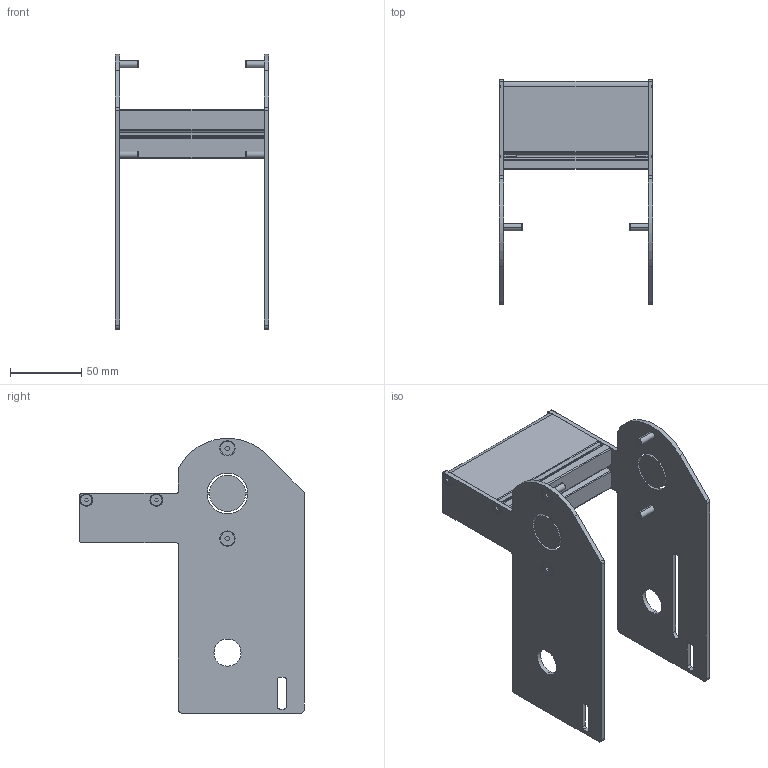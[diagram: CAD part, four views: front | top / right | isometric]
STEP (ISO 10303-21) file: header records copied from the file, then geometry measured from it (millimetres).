
FILE_DESCRIPTION((''),'2;1');
FILE_NAME('350712-04_ASM','2023-03-22T',('jenni.wallner'),(''),'PRO/ENGINEER BY PARAMETRIC TECHNOLOGY CORPORATION, 2012420','PRO/ENGINEER BY PARAMETRIC TECHNOLOGY CORPORATION, 2012420','');
FILE_SCHEMA(('CONFIG_CONTROL_DESIGN'));
Length unit declared in the file: inch
Products named in the file (6): 350669-04; 350667; 350668; 930412M; 930516M; 350712-04_ASM
Assembly tree (11 placements, depth 2):
  350712-04_ASM
    350669-04
    350667
    350668
    930412M  x4
    930516M  x4
Bounding box: 107.59 x 158.09 x 193.27 mm (x, y, z)
Volume: 193937.6 mm3; surface area: 132897.9 mm2
Topology: 11 solids, 11 shells, 336 faces, 878 edges, 572 vertices
Faces by surface type: plane 150, cylinder 138, cone 48
Entity records: 7843 total; most frequent: DIRECTION 1412, CARTESIAN_POINT 1329, ORIENTED_EDGE 1300, EDGE_CURVE 650, AXIS2_PLACEMENT_3D 511, VERTEX_POINT 428, VECTOR 390, LINE 390
